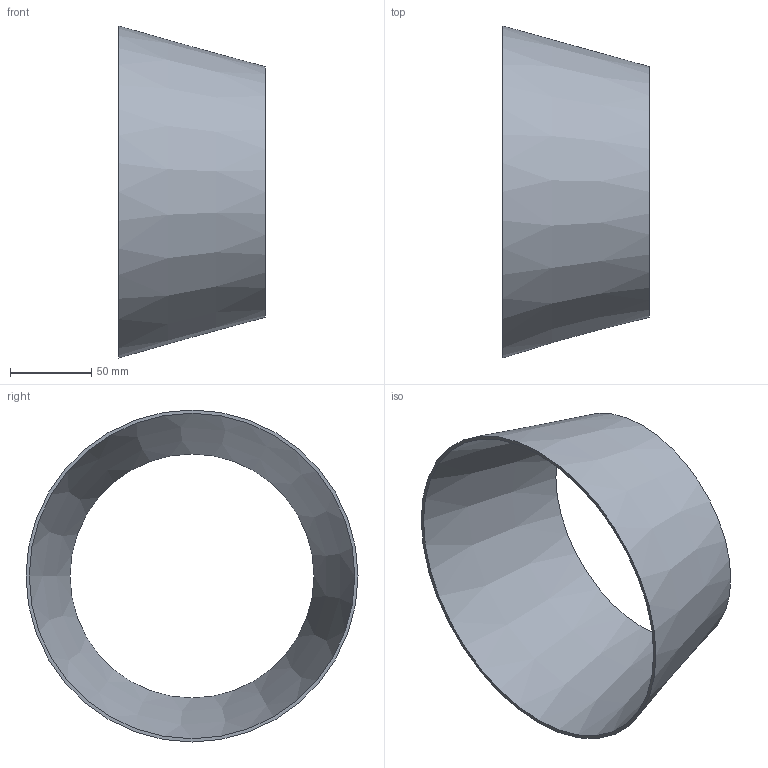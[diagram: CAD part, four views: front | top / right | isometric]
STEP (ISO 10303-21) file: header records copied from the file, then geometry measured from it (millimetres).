
FILE_DESCRIPTION(('FreeCAD Model'),'2;1');
FILE_NAME( '/home/martin/Documents/proyect/accesorios/stp/red-con_DN200-150.step' ,'2017-12-31T12:24:20',('Author'),(''), 'Open CASCADE STEP processor 6.8','FreeCAD','Unknown');
FILE_SCHEMA(('AUTOMOTIVE_DESIGN_CC2 { 1 2 10303 214 -1 1 5 4 }'));
Length unit declared in the file: millimetre
Products named in the file (1): red-con_DN200-150
Bounding box: 90 x 204 x 204 mm (x, y, z)
Volume: 100091.1 mm3; surface area: 106105.2 mm2
Topology: 1 solids, 1 shells, 4 faces, 6 edges, 4 vertices
Faces by surface type: cone 2, plane 2
Entity records: 191 total; most frequent: CARTESIAN_POINT 33, DIRECTION 26, ORIENTED_EDGE 12, PCURVE 12, DEFINITIONAL_REPRESENTATION 12, AXIS2_PLACEMENT_3D 9, CIRCLE 8, FACE_BOUND 6
